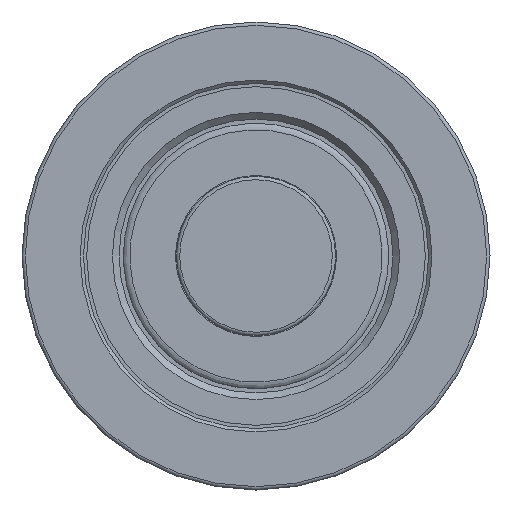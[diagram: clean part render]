
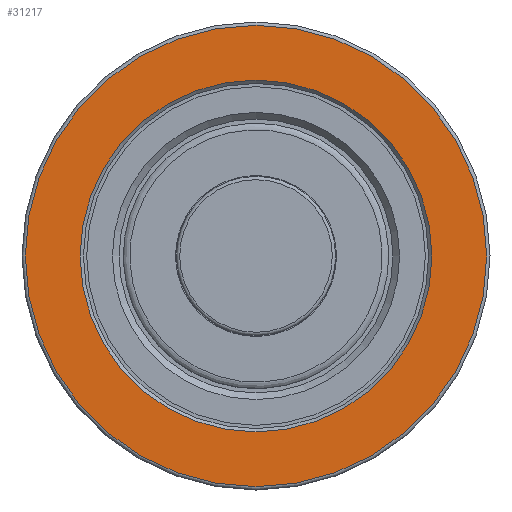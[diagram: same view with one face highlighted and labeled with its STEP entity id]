
A CAD part, front view. The second image highlights one B-rep face of the part: STEP entity #31217.
In plain terms, the highlighted planar face has unit normal (0, -1, 0).
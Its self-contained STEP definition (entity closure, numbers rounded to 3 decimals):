
#2959=FACE_BOUND('',#11658,.T.);
#9968=FACE_OUTER_BOUND('',#11657,.T.);
#11657=EDGE_LOOP('',(#26713));
#11658=EDGE_LOOP('',(#26714));
#12571=CIRCLE('',#32516,13.9);
#12575=CIRCLE('',#32521,10.6);
#14827=VERTEX_POINT('',#59959);
#14830=VERTEX_POINT('',#59967);
#18951=EDGE_CURVE('',#14827,#14827,#12571,.T.);
#18955=EDGE_CURVE('',#14830,#14830,#12575,.T.);
#26713=ORIENTED_EDGE('',*,*,#18951,.F.);
#26714=ORIENTED_EDGE('',*,*,#18955,.F.);
#29979=PLANE('',#32520);
#31217=ADVANCED_FACE('',(#9968,#2959),#29979,.T.);
#32516=AXIS2_PLACEMENT_3D('',#59960,#35594,#35595);
#32520=AXIS2_PLACEMENT_3D('',#59966,#35602,#35603);
#32521=AXIS2_PLACEMENT_3D('',#59968,#35604,#35605);
#35594=DIRECTION('center_axis',(0.,1.,0.));
#35595=DIRECTION('ref_axis',(0.,0.,
1.));
#35602=DIRECTION('center_axis',(0.,-1.,0.));
#35603=DIRECTION('ref_axis',(1.,0.,0.));
#35604=DIRECTION('center_axis',(0.,-1.,0.));
#35605=DIRECTION('ref_axis',(0.,0.,
1.));
#59959=CARTESIAN_POINT('',(-13.9,-20.342,0.));
#59960=CARTESIAN_POINT('Origin',(0.,-20.342,
0.));
#59966=CARTESIAN_POINT('Origin',(0.,-20.342,
-10.4));
#59967=CARTESIAN_POINT('',(0.,-20.342,-10.6));
#59968=CARTESIAN_POINT('Origin',(0.,-20.342,
0.));
